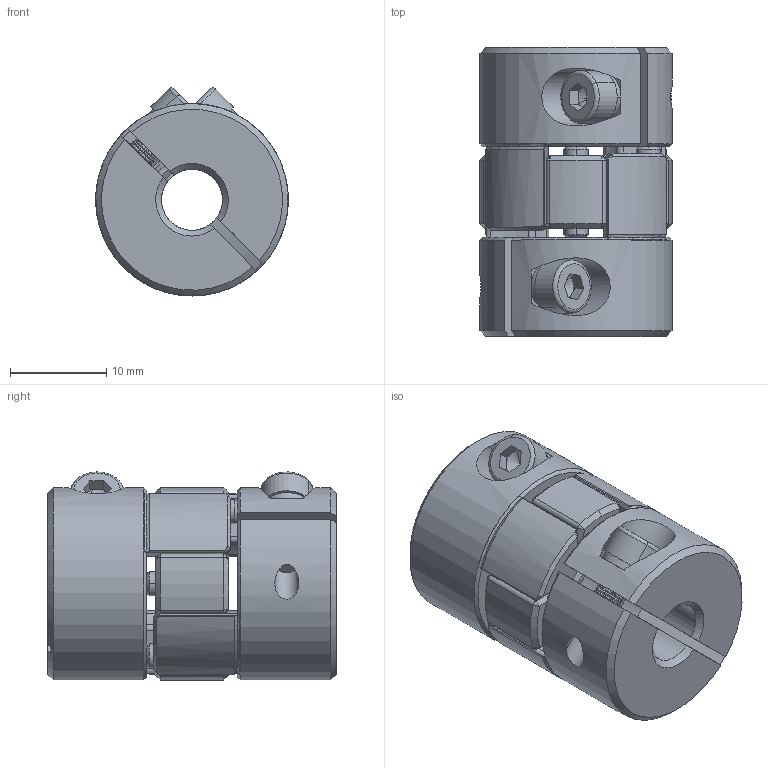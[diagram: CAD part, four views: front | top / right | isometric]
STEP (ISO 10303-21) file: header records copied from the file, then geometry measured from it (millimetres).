
FILE_DESCRIPTION (( 'STEP AP203' ), '1' );
FILE_NAME ('LF-B-D20L30-6.35-6.35.STEP', '2021-10-27T02:50:47', ( '' ), ( '' ), 'SwSTEP 2.0', 'SolidWorks 2018', '' );
FILE_SCHEMA (( 'CONFIG_CONTROL_DESIGN' ));
Length unit declared in the file: millimetre
Products named in the file (1): LF-B-D20L30-6.35-6.35
Bounding box: 20 x 30 x 21.62 mm (x, y, z)
Volume: 7673.8 mm3; surface area: 4885.8 mm2
Topology: 1 solids, 1 shells, 518 faces, 1253 edges, 691 vertices
Faces by surface type: cone 252, cylinder 192, plane 62, torus 12
Entity records: 15022 total; most frequent: CARTESIAN_POINT 2902, DIRECTION 2742, ORIENTED_EDGE 2426, EDGE_CURVE 1213, AXIS2_PLACEMENT_3D 1107, VERTEX_POINT 691, CIRCLE 588, EDGE_LOOP 546
